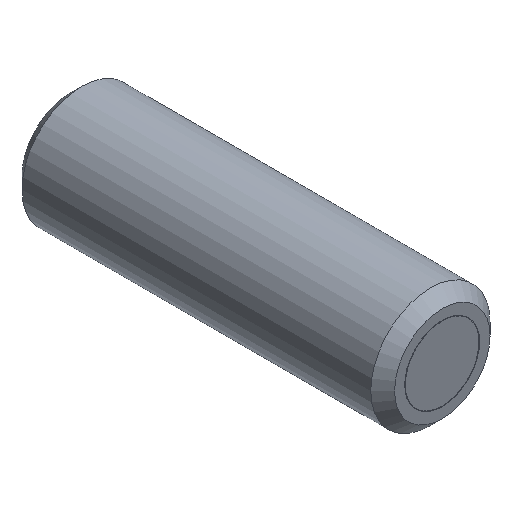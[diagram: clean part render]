
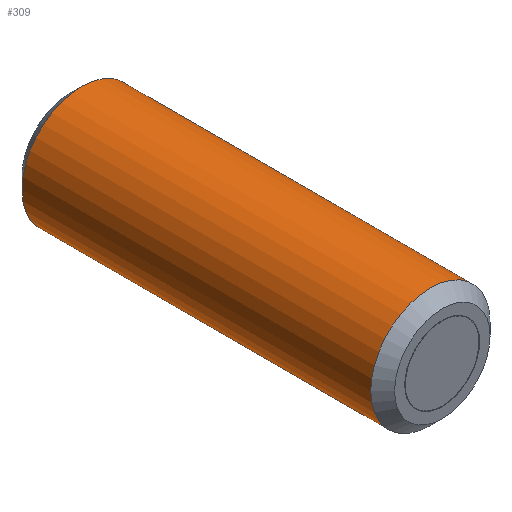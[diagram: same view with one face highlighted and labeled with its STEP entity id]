
A CAD part, isometric view. The second image highlights one B-rep face of the part: STEP entity #309.
In plain terms, the highlighted cylindrical face has radius 4 mm (diameter 8 mm), a full revolution.
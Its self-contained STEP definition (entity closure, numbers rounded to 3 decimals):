
#21=CYLINDRICAL_SURFACE('',#346,4.);
#84=ORIENTED_EDGE('',*,*,#159,.F.);
#85=ORIENTED_EDGE('',*,*,#158,.T.);
#158=EDGE_CURVE('',#196,#196,#217,.T.);
#159=EDGE_CURVE('',#197,#197,#218,.T.);
#196=VERTEX_POINT('',#494);
#197=VERTEX_POINT('',#497);
#217=CIRCLE('',#345,4.);
#218=CIRCLE('',#347,4.);
#234=EDGE_LOOP('',(#84));
#235=EDGE_LOOP('',(#85));
#264=FACE_BOUND('',#234,.T.);
#265=FACE_BOUND('',#235,.T.);
#309=ADVANCED_FACE('',(#264,#265),#21,.T.);
#345=AXIS2_PLACEMENT_3D('',#493,#392,#393);
#346=AXIS2_PLACEMENT_3D('',#495,#394,#395);
#347=AXIS2_PLACEMENT_3D('',#496,#396,#397);
#392=DIRECTION('',(0.,-1.,0.));
#393=DIRECTION('',(0.,0.,-1.));
#394=DIRECTION('',(0.,-1.,0.));
#395=DIRECTION('',(0.,0.,-1.));
#396=DIRECTION('',(0.,-1.,0.));
#397=DIRECTION('',(0.,0.,-1.));
#493=CARTESIAN_POINT('',(0.,24.2,0.));
#494=CARTESIAN_POINT('',(0.,24.2,-4.));
#495=CARTESIAN_POINT('',(0.,0.,0.));
#496=CARTESIAN_POINT('',(0.,0.8,0.));
#497=CARTESIAN_POINT('',(0.,0.8,-4.));
